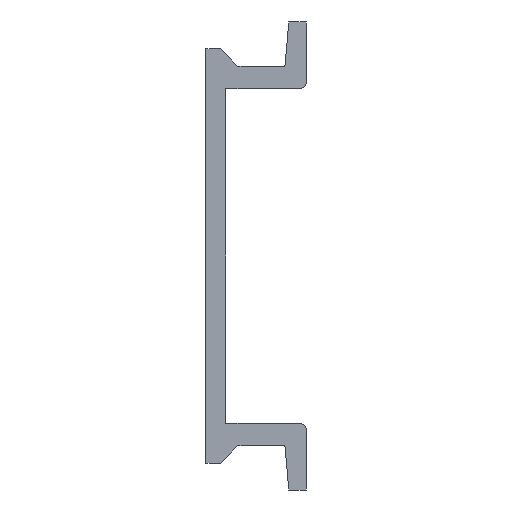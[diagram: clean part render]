
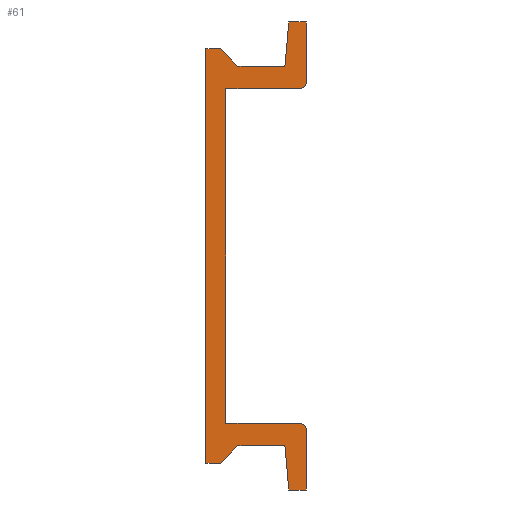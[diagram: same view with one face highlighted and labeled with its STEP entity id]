
A CAD part, left-side view. The second image highlights one B-rep face of the part: STEP entity #61.
In plain terms, the highlighted planar face has unit normal (-1, 0, 0).
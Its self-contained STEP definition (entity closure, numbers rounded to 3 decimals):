
#61=ADVANCED_FACE('',(#319),#318,.F.);
#318=PLANE('',#752);
#319=FACE_OUTER_BOUND('',#753,.T.);
#749=CARTESIAN_POINT('',(0.,-8.25,21.));
#750=DIRECTION('',(1.,0.,0.));
#751=DIRECTION('',(0.,0.,-1.));
#752=AXIS2_PLACEMENT_3D('',#749,#750,#751);
#753=EDGE_LOOP('',(#1066,#1067,#1068,#1069,#1070,#1071,#1072,#1073,#1074,#1075,#1076,#1077,#1078,#1079,#1080,#1081,#1082,#1083));
#1066=ORIENTED_EDGE('',*,*,#1211,.T.);
#1067=ORIENTED_EDGE('',*,*,#1215,.T.);
#1068=ORIENTED_EDGE('',*,*,#1323,.T.);
#1069=ORIENTED_EDGE('',*,*,#1320,.T.);
#1070=ORIENTED_EDGE('',*,*,#1317,.T.);
#1071=ORIENTED_EDGE('',*,*,#1314,.T.);
#1072=ORIENTED_EDGE('',*,*,#1311,.T.);
#1073=ORIENTED_EDGE('',*,*,#1308,.T.);
#1074=ORIENTED_EDGE('',*,*,#1305,.T.);
#1075=ORIENTED_EDGE('',*,*,#1302,.T.);
#1076=ORIENTED_EDGE('',*,*,#1269,.T.);
#1077=ORIENTED_EDGE('',*,*,#1266,.T.);
#1078=ORIENTED_EDGE('',*,*,#1263,.T.);
#1079=ORIENTED_EDGE('',*,*,#1260,.T.);
#1080=ORIENTED_EDGE('',*,*,#1257,.T.);
#1081=ORIENTED_EDGE('',*,*,#1254,.T.);
#1082=ORIENTED_EDGE('',*,*,#1251,.T.);
#1083=ORIENTED_EDGE('',*,*,#1248,.T.);
#1211=EDGE_CURVE('',#1402,#1403,#1404,.T.);
#1215=EDGE_CURVE('',#1403,#1430,#1431,.T.);
#1248=EDGE_CURVE('',#1659,#1402,#1660,.T.);
#1251=EDGE_CURVE('',#1679,#1659,#1680,.T.);
#1254=EDGE_CURVE('',#1699,#1679,#1700,.T.);
#1257=EDGE_CURVE('',#1719,#1699,#1720,.T.);
#1260=EDGE_CURVE('',#1739,#1719,#1740,.T.);
#1263=EDGE_CURVE('',#1759,#1739,#1760,.T.);
#1266=EDGE_CURVE('',#1779,#1759,#1780,.T.);
#1269=EDGE_CURVE('',#1799,#1779,#1800,.T.);
#1302=EDGE_CURVE('',#2028,#1799,#2029,.T.);
#1305=EDGE_CURVE('',#2048,#2028,#2049,.T.);
#1308=EDGE_CURVE('',#2068,#2048,#2069,.T.);
#1311=EDGE_CURVE('',#2088,#2068,#2089,.T.);
#1314=EDGE_CURVE('',#2108,#2088,#2109,.T.);
#1317=EDGE_CURVE('',#2128,#2108,#2129,.T.);
#1320=EDGE_CURVE('',#2148,#2128,#2149,.T.);
#1323=EDGE_CURVE('',#1430,#2148,#2168,.T.);
#1402=VERTEX_POINT('',#2383);
#1403=VERTEX_POINT('',#2384);
#1404=LINE('',#2385,#2386);
#1430=VERTEX_POINT('',#2399);
#1431=LINE('',#2400,#2401);
#1659=VERTEX_POINT('',#2544);
#1660=CIRCLE('',#2548,0.5);
#1679=VERTEX_POINT('',#2557);
#1680=LINE('',#2558,#2559);
#1699=VERTEX_POINT('',#2568);
#1700=LINE('',#2569,#2570);
#1719=VERTEX_POINT('',#2579);
#1720=LINE('',#2580,#2581);
#1739=VERTEX_POINT('',#2590);
#1740=LINE('',#2591,#2592);
#1759=VERTEX_POINT('',#2601);
#1760=LINE('',#2602,#2603);
#1779=VERTEX_POINT('',#2612);
#1780=LINE('',#2613,#2614);
#1799=VERTEX_POINT('',#2623);
#1800=LINE('',#2624,#2625);
#2028=VERTEX_POINT('',#2768);
#2029=LINE('',#2769,#2770);
#2048=VERTEX_POINT('',#2779);
#2049=LINE('',#2780,#2781);
#2068=VERTEX_POINT('',#2790);
#2069=LINE('',#2791,#2792);
#2088=VERTEX_POINT('',#2801);
#2089=LINE('',#2802,#2803);
#2108=VERTEX_POINT('',#2812);
#2109=LINE('',#2813,#2814);
#2128=VERTEX_POINT('',#2823);
#2129=LINE('',#2824,#2825);
#2148=VERTEX_POINT('',#2834);
#2149=CIRCLE('',#2838,0.5);
#2168=LINE('',#2847,#2848);
#2383=CARTESIAN_POINT('',(0.,-7.,-12.5));
#2384=CARTESIAN_POINT('',(0.,-1.5,-12.5));
#2385=CARTESIAN_POINT('',(0.,-7.,-12.5));
#2386=VECTOR('',#2387,5.5);
#2387=DIRECTION('',(0.,1.,0.));
#2399=CARTESIAN_POINT('',(0.,-1.5,12.5));
#2400=CARTESIAN_POINT('',(0.,-1.5,-12.5));
#2401=VECTOR('',#2402,25.);
#2402=DIRECTION('',(0.,0.,1.));
#2544=CARTESIAN_POINT('',(0.,-7.5,-13.));
#2545=CARTESIAN_POINT('',(0.,-7.,-13.));
#2546=DIRECTION('',(-1.,0.,0.));
#2547=DIRECTION('',(0.,0.,1.));
#2548=AXIS2_PLACEMENT_3D('',#2545,#2546,#2547);
#2557=CARTESIAN_POINT('',(0.,-7.5,-17.5));
#2558=CARTESIAN_POINT('',(0.,-7.5,-17.5));
#2559=VECTOR('',#2560,4.5);
#2560=DIRECTION('',(0.,0.,1.));
#2568=CARTESIAN_POINT('',(0.,-6.2,-17.5));
#2569=CARTESIAN_POINT('',(0.,-6.2,-17.5));
#2570=VECTOR('',#2571,1.3);
#2571=DIRECTION('',(0.,-1.,0.));
#2579=CARTESIAN_POINT('',(0.,-5.911,-14.2));
#2580=CARTESIAN_POINT('',(0.,-5.911,-14.2));
#2581=VECTOR('',#2582,3.313);
#2582=DIRECTION('',(0.,-0.087,-0.996));
#2590=CARTESIAN_POINT('',(0.,-2.4,-14.2));
#2591=CARTESIAN_POINT('',(0.,-2.4,-14.2));
#2592=VECTOR('',#2593,3.511);
#2593=DIRECTION('',(0.,-1.,0.));
#2601=CARTESIAN_POINT('',(0.,-1.1,-15.5));
#2602=CARTESIAN_POINT('',(0.,-1.1,-15.5));
#2603=VECTOR('',#2604,1.838);
#2604=DIRECTION('',(0.,-0.707,0.707));
#2612=CARTESIAN_POINT('',(0.,0.,-15.5));
#2613=CARTESIAN_POINT('',(0.,0.,-15.5));
#2614=VECTOR('',#2615,1.1);
#2615=DIRECTION('',(0.,-1.,0.));
#2623=CARTESIAN_POINT('',(0.,0.,15.5));
#2624=CARTESIAN_POINT('',(0.,0.,15.5));
#2625=VECTOR('',#2626,31.);
#2626=DIRECTION('',(0.,0.,-1.));
#2768=CARTESIAN_POINT('',(0.,-1.1,15.5));
#2769=CARTESIAN_POINT('',(0.,-1.1,15.5));
#2770=VECTOR('',#2771,1.1);
#2771=DIRECTION('',(0.,1.,0.));
#2779=CARTESIAN_POINT('',(0.,-2.4,14.2));
#2780=CARTESIAN_POINT('',(0.,-2.4,14.2));
#2781=VECTOR('',#2782,1.838);
#2782=DIRECTION('',(0.,0.707,0.707));
#2790=CARTESIAN_POINT('',(0.,-5.911,14.2));
#2791=CARTESIAN_POINT('',(0.,-5.911,14.2));
#2792=VECTOR('',#2793,3.511);
#2793=DIRECTION('',(0.,1.,0.));
#2801=CARTESIAN_POINT('',(0.,-6.2,17.5));
#2802=CARTESIAN_POINT('',(0.,-6.2,17.5));
#2803=VECTOR('',#2804,3.313);
#2804=DIRECTION('',(0.,0.087,-0.996));
#2812=CARTESIAN_POINT('',(0.,-7.5,17.5));
#2813=CARTESIAN_POINT('',(0.,-7.5,17.5));
#2814=VECTOR('',#2815,1.3);
#2815=DIRECTION('',(0.,1.,0.));
#2823=CARTESIAN_POINT('',(0.,-7.5,13.));
#2824=CARTESIAN_POINT('',(0.,-7.5,13.));
#2825=VECTOR('',#2826,4.5);
#2826=DIRECTION('',(0.,0.,1.));
#2834=CARTESIAN_POINT('',(0.,-7.,12.5));
#2835=CARTESIAN_POINT('',(0.,-7.,13.));
#2836=DIRECTION('',(-1.,0.,0.));
#2837=DIRECTION('',(0.,0.,1.));
#2838=AXIS2_PLACEMENT_3D('',#2835,#2836,#2837);
#2847=CARTESIAN_POINT('',(0.,-1.5,12.5));
#2848=VECTOR('',#2849,5.5);
#2849=DIRECTION('',(0.,-1.,0.));
